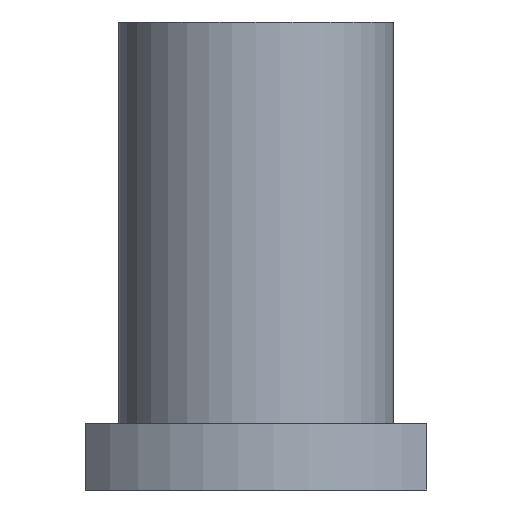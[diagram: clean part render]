
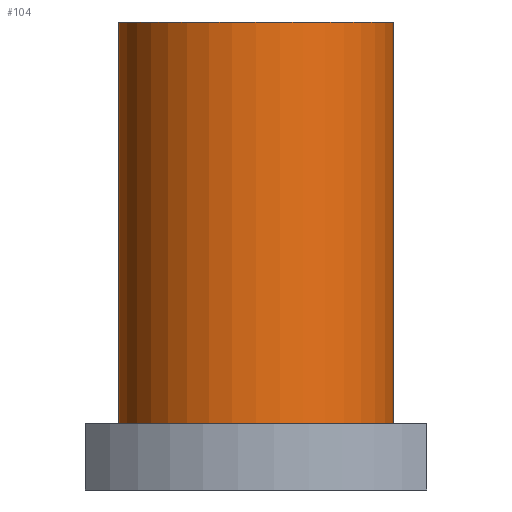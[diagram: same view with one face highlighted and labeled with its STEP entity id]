
A CAD part, front view. The second image highlights one B-rep face of the part: STEP entity #104.
In plain terms, the highlighted cylindrical face has radius 25 mm (diameter 50 mm), a full revolution.
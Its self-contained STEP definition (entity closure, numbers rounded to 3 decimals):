
#104=ADVANCED_FACE('',(#134,#135),#122,.T.);
#122=CYLINDRICAL_SURFACE('',#395,25.);
#134=FACE_BOUND('',#183,.T.);
#135=FACE_BOUND('',#184,.T.);
#183=EDGE_LOOP('',(#248));
#184=EDGE_LOOP('',(#249));
#248=ORIENTED_EDGE('',*,*,#340,.F.);
#249=ORIENTED_EDGE('',*,*,#341,.T.);
#312=VERTEX_POINT('',#590);
#313=VERTEX_POINT('',#592);
#340=EDGE_CURVE('',#312,#312,#369,.T.);
#341=EDGE_CURVE('',#313,#313,#370,.T.);
#369=CIRCLE('',#393,25.);
#370=CIRCLE('',#394,25.);
#393=AXIS2_PLACEMENT_3D('',#589,#440,#441);
#394=AXIS2_PLACEMENT_3D('',#591,#442,#443);
#395=AXIS2_PLACEMENT_3D('',#593,#444,#445);
#440=DIRECTION('',(0.,0.,-1.));
#441=DIRECTION('',(1.,0.,0.));
#442=DIRECTION('',(0.,0.,-1.));
#443=DIRECTION('',(1.,0.,0.));
#444=DIRECTION('',(0.,0.,-1.));
#445=DIRECTION('',(-1.,0.,0.));
#589=CARTESIAN_POINT('',(0.,0.,12.));
#590=CARTESIAN_POINT('',(25.,0.,12.));
#591=CARTESIAN_POINT('',(0.,0.,85.));
#592=CARTESIAN_POINT('',(25.,0.,85.));
#593=CARTESIAN_POINT('',(0.,0.,85.));
